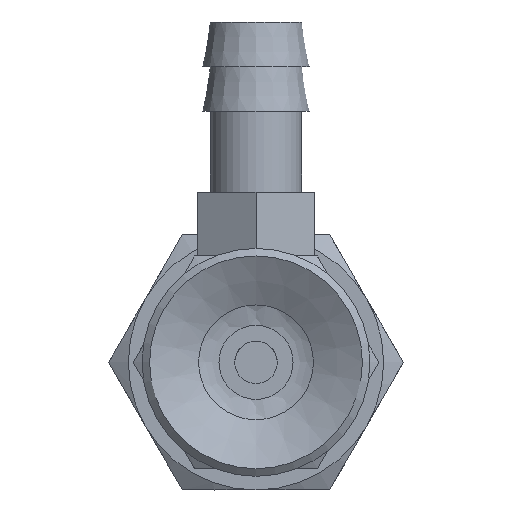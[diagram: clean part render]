
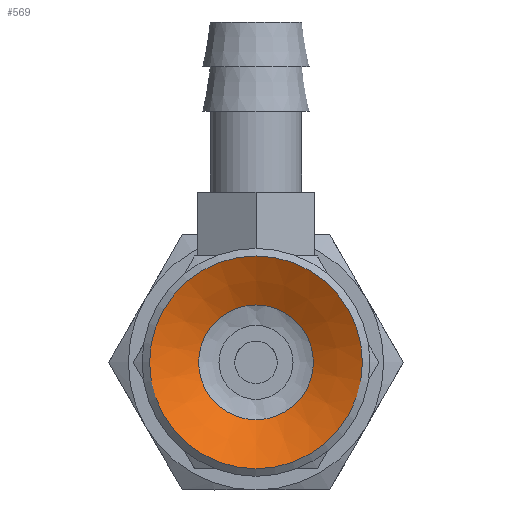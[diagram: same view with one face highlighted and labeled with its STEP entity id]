
A CAD part, front view. The second image highlights one B-rep face of the part: STEP entity #569.
In plain terms, the highlighted conical face has half-angle 61.39 degrees and reference radius 2.25 mm.
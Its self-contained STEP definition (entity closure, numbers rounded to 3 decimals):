
#569=ADVANCED_FACE('',(#871,#872),#873,.F.);
#871=FACE_BOUND('',#1206,.T.);
#872=FACE_OUTER_BOUND('',#1207,.T.);
#873=CONICAL_SURFACE('',#1208,2.25,1.071);
#1206=EDGE_LOOP('',(#2050));
#1207=EDGE_LOOP('',(#2051));
#1208=AXIS2_PLACEMENT_3D('',#2052,#2053,#2054);
#2050=ORIENTED_EDGE('',*,*,#2377,.T.);
#2051=ORIENTED_EDGE('',*,*,#2372,.T.);
#2052=CARTESIAN_POINT('',(0.0,1.5,0.0));
#2053=DIRECTION('',(-0.0,-1.0,0.));
#2054=DIRECTION('',(0.0,0.,-1.0));
#2372=EDGE_CURVE('',#2751,#2751,#2752,.T.);
#2377=EDGE_CURVE('',#2761,#2761,#2762,.T.);
#2751=VERTEX_POINT('',#3583);
#2752=CIRCLE('',#3584,5.);
#2761=VERTEX_POINT('',#3593);
#2762=CIRCLE('',#3594,2.698);
#3583=CARTESIAN_POINT('',(0.0,0.,-5.));
#3584=AXIS2_PLACEMENT_3D('',#3960,#3961,#3962);
#3593=CARTESIAN_POINT('',(0.0,1.256,-2.698));
#3594=AXIS2_PLACEMENT_3D('',#3975,#3976,#3977);
#3960=CARTESIAN_POINT('',(0.0,0.0,0.0));
#3961=DIRECTION('',(0.0,-1.0,0.));
#3962=DIRECTION('',(0.0,0.,-1.0));
#3975=CARTESIAN_POINT('',(0.0,1.256,0.0));
#3976=DIRECTION('',(0.0,1.0,0.));
#3977=DIRECTION('',(0.0,0.,-1.0));
